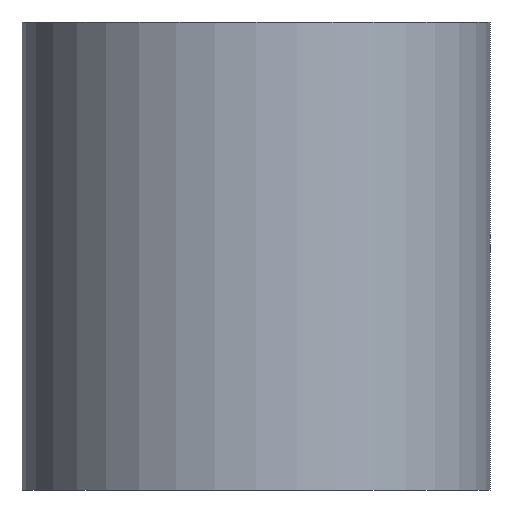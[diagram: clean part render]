
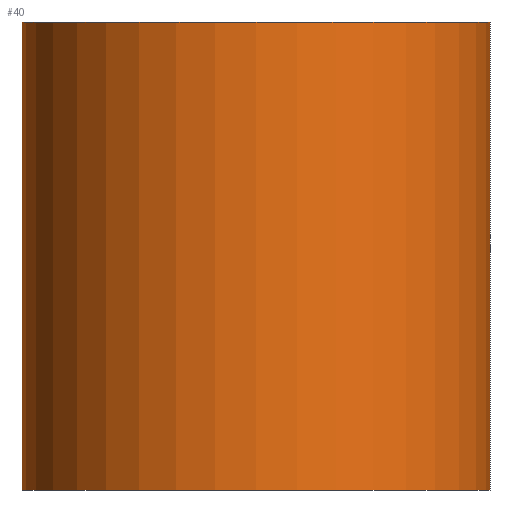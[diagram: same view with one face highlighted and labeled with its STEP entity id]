
A CAD part, left-side view. The second image highlights one B-rep face of the part: STEP entity #40.
In plain terms, the highlighted cylindrical face has radius 5 mm (diameter 10 mm), a partial arc.
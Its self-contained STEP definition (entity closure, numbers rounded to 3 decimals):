
#27 = CIRCLE ( 'NONE', #226, 5. ) ;
#30 = CARTESIAN_POINT ( 'NONE',  ( 0., 5., 0. ) ) ;
#37 = CARTESIAN_POINT ( 'NONE',  ( 0., 5., 0.333 ) ) ;
#40 = ADVANCED_FACE ( 'NONE', ( #93 ), #303, .T. ) ;
#58 = CARTESIAN_POINT ( 'NONE',  ( 0., 0., 0.333 ) ) ;
#59 = CARTESIAN_POINT ( 'NONE',  ( 0., 5., 10. ) ) ;
#64 = AXIS2_PLACEMENT_3D ( 'NONE', #106, #345, #205 ) ;
#87 = EDGE_CURVE ( 'NONE', #411, #286, #184, .T. ) ;
#91 = VERTEX_POINT ( 'NONE', #173 ) ;
#93 = FACE_OUTER_BOUND ( 'NONE', #351, .T. ) ;
#99 = CIRCLE ( 'NONE', #64, 5. ) ;
#106 = CARTESIAN_POINT ( 'NONE',  ( 0., 0., 10. ) ) ;
#126 = VECTOR ( 'NONE', #137, 1000. ) ;
#131 = EDGE_CURVE ( 'NONE', #286, #188, #99, .T. ) ;
#137 = DIRECTION ( 'NONE',  ( 0., 0., 1. ) ) ;
#142 = DIRECTION ( 'NONE',  ( 0., 0., 1. ) ) ;
#173 = CARTESIAN_POINT ( 'NONE',  ( 0., -5., 0. ) ) ;
#183 = CARTESIAN_POINT ( 'NONE',  ( 0., -5., 0.333 ) ) ;
#184 = LINE ( 'NONE', #37, #126 ) ;
#188 = VERTEX_POINT ( 'NONE', #212 ) ;
#193 = EDGE_CURVE ( 'NONE', #91, #188, #374, .T. ) ;
#198 = DIRECTION ( 'NONE',  ( 0., -1., 0. ) ) ;
#205 = DIRECTION ( 'NONE',  ( 0., -1., 0. ) ) ;
#212 = CARTESIAN_POINT ( 'NONE',  ( 0., -5., 10. ) ) ;
#226 = AXIS2_PLACEMENT_3D ( 'NONE', #296, #430, #198 ) ;
#264 = VECTOR ( 'NONE', #142, 1000. ) ;
#286 = VERTEX_POINT ( 'NONE', #59 ) ;
#291 = DIRECTION ( 'NONE',  ( 0., 0., 1. ) ) ;
#294 = EDGE_CURVE ( 'NONE', #411, #91, #27, .T. ) ;
#296 = CARTESIAN_POINT ( 'NONE',  ( 0., 0., 0. ) ) ;
#303 = CYLINDRICAL_SURFACE ( 'NONE', #365, 5. ) ;
#317 = ORIENTED_EDGE ( 'NONE', *, *, #131, .F. ) ;
#345 = DIRECTION ( 'NONE',  ( 0., 0., 1. ) ) ;
#351 = EDGE_LOOP ( 'NONE', ( #357, #419, #426, #317 ) ) ;
#357 = ORIENTED_EDGE ( 'NONE', *, *, #87, .F. ) ;
#365 = AXIS2_PLACEMENT_3D ( 'NONE', #58, #291, #422 ) ;
#374 = LINE ( 'NONE', #183, #264 ) ;
#411 = VERTEX_POINT ( 'NONE', #30 ) ;
#419 = ORIENTED_EDGE ( 'NONE', *, *, #294, .T. ) ;
#422 = DIRECTION ( 'NONE',  ( 0., -1., 0. ) ) ;
#426 = ORIENTED_EDGE ( 'NONE', *, *, #193, .T. ) ;
#430 = DIRECTION ( 'NONE',  ( 0., 0., 1. ) ) ;
